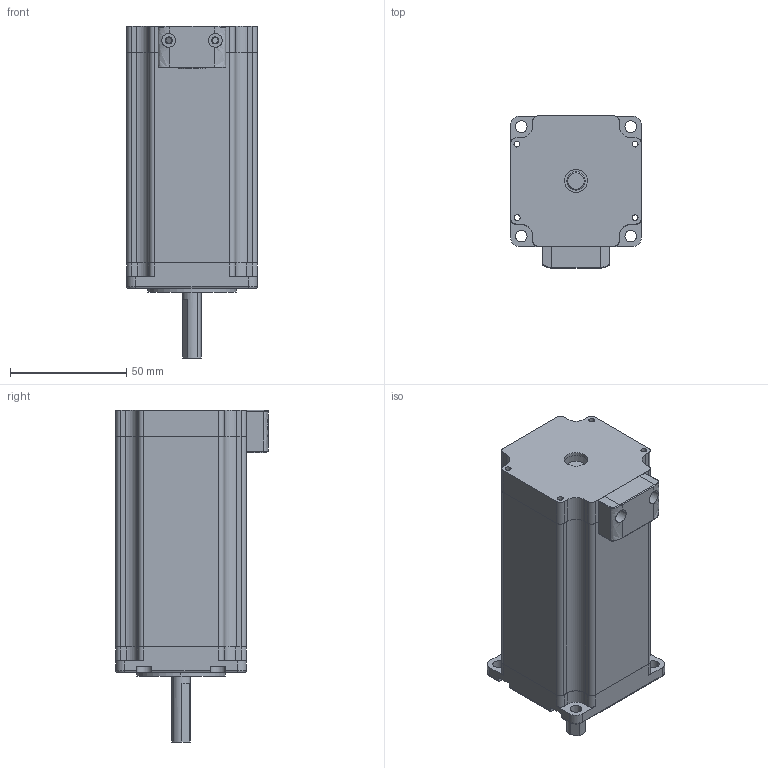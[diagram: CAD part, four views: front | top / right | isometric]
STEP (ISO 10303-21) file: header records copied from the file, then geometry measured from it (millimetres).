
FILE_DESCRIPTION (( 'STEP AP214' ), '1' );
FILE_NAME ('57CM32-30.STEP', '2024-12-13T07:24:57', ( 'MM' ), ( 'Microsoft' ), 'SwSTEP 2.0', 'SolidWorks 2020', '' );
FILE_SCHEMA (( 'AUTOMOTIVE_DESIGN' ));
Length unit declared in the file: millimetre
Products named in the file (7): 隅赽; 57綴裔; 57 ヶ裔; 蛌粣; 57等謂揤盄輸; 蛌赽郪璃; 57CM32-30
Assembly tree (6 placements, depth 3):
  57CM32-30
    57綴裔
    隅赽
    57 ヶ裔
    蛌赽郪璃
      蛌粣
    57等謂揤盄輸
Bounding box: 56.2 x 65.7 x 143 mm (x, y, z)
Volume: 155040.4 mm3; surface area: 99078.6 mm2
Topology: 5 solids, 5 shells, 791 faces, 2245 edges, 1479 vertices
Faces by surface type: cylinder 490, plane 267, bspline 14, cone 12, torus 8
Entity records: 27783 total; most frequent: CARTESIAN_POINT 5521, DIRECTION 4742, ORIENTED_EDGE 4486, EDGE_CURVE 2243, AXIS2_PLACEMENT_3D 1780, VERTEX_POINT 1479, LINE 1182, VECTOR 1182
